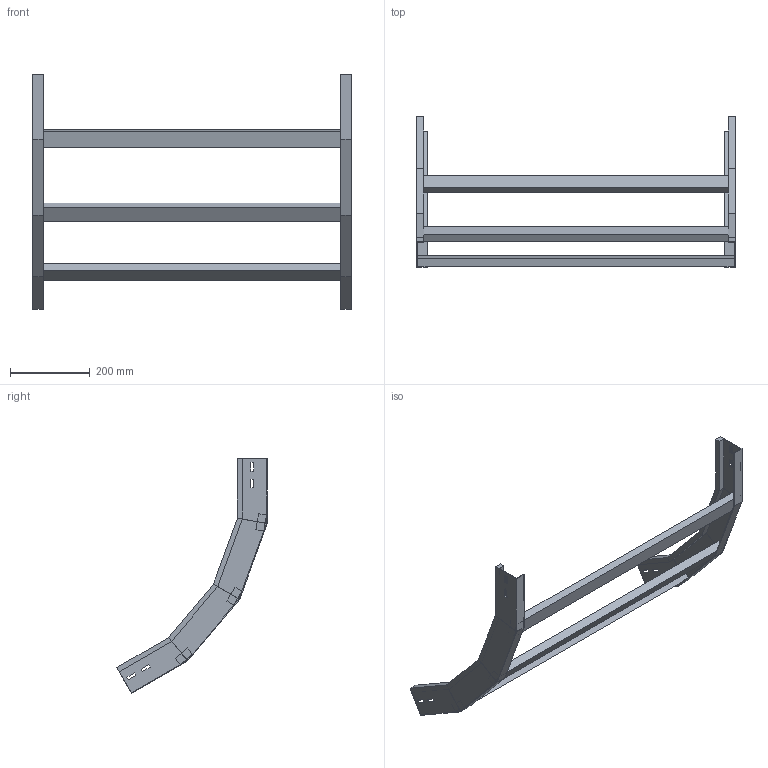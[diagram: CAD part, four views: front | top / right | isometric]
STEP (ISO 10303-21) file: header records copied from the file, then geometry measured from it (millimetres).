
FILE_DESCRIPTION (( 'STEP AP214' ), '1' );
FILE_NAME ('A2X40B5C800XX.step', '2025-03-20T10:17:33', ( '' ), ( '' ), 'SwSTEP 2.0', 'SolidWorks 2023', '' );
FILE_SCHEMA (( 'AUTOMOTIVE_DESIGN' ));
Length unit declared in the file: millimetre
Products named in the file (3): A2X40B5C800XX; LONGH.SALITA_60°_H75_R500; TRAVERSINO_800
Assembly tree (5 placements, depth 2):
  A2X40B5C800XX
    LONGH.SALITA_60°_H75_R500  x2
    TRAVERSINO_800  x3
Bounding box: 800 x 377.79 x 589.4 mm (x, y, z)
Volume: 2464410 mm3; surface area: 621591.6 mm2
Topology: 5 solids, 5 shells, 118 faces, 276 edges, 168 vertices
Faces by surface type: plane 118
Entity records: 1672 total; most frequent: CARTESIAN_POINT 276, ORIENTED_EDGE 264, DIRECTION 260, LINE 132, VECTOR 132, EDGE_CURVE 132, VERTEX_POINT 80, EDGE_LOOP 64
